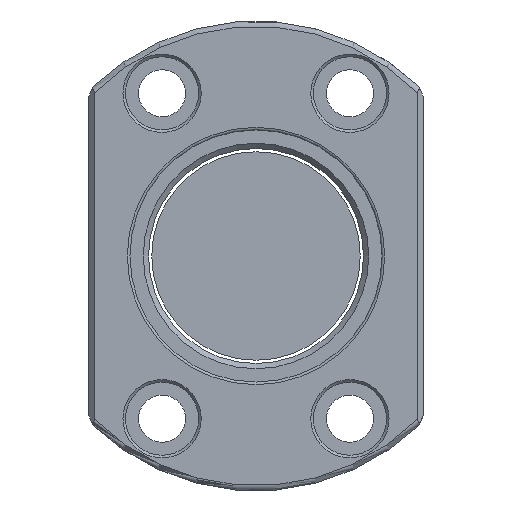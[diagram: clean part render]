
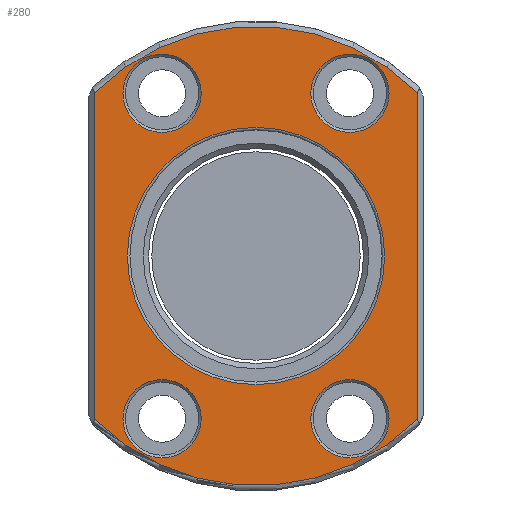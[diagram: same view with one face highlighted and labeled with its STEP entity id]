
A CAD part, front view. The second image highlights one B-rep face of the part: STEP entity #280.
In plain terms, the highlighted planar face has unit normal (0, -1, 0).
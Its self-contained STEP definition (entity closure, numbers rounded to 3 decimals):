
#58=LINE('',#1732,#98);
#59=LINE('',#1736,#99);
#98=VECTOR('',#1397,1.);
#99=VECTOR('',#1400,1.);
#203=PLANE('',#1170);
#280=ADVANCED_FACE('',(#385,#386,#387,#388,#389,#390),#203,.T.);
#385=FACE_BOUND('',#497,.T.);
#386=FACE_BOUND('',#498,.T.);
#387=FACE_BOUND('',#499,.T.);
#388=FACE_BOUND('',#500,.T.);
#389=FACE_BOUND('',#501,.T.);
#390=FACE_BOUND('',#502,.T.);
#497=EDGE_LOOP('',(#664));
#498=EDGE_LOOP('',(#665));
#499=EDGE_LOOP('',(#666));
#500=EDGE_LOOP('',(#667));
#501=EDGE_LOOP('',(#668));
#502=EDGE_LOOP('',(#669,#670,#671,#672));
#664=ORIENTED_EDGE('',*,*,#966,.T.);
#665=ORIENTED_EDGE('',*,*,#967,.T.);
#666=ORIENTED_EDGE('',*,*,#968,.T.);
#667=ORIENTED_EDGE('',*,*,#969,.T.);
#668=ORIENTED_EDGE('',*,*,#970,.T.);
#669=ORIENTED_EDGE('',*,*,#971,.T.);
#670=ORIENTED_EDGE('',*,*,#972,.T.);
#671=ORIENTED_EDGE('',*,*,#973,.T.);
#672=ORIENTED_EDGE('',*,*,#974,.T.);
#861=VERTEX_POINT('',#1720);
#862=VERTEX_POINT('',#1722);
#863=VERTEX_POINT('',#1724);
#864=VERTEX_POINT('',#1726);
#865=VERTEX_POINT('',#1728);
#866=VERTEX_POINT('',#1730);
#867=VERTEX_POINT('',#1731);
#868=VERTEX_POINT('',#1733);
#869=VERTEX_POINT('',#1735);
#966=EDGE_CURVE('',#861,#861,#1068,.T.);
#967=EDGE_CURVE('',#862,#862,#1069,.T.);
#968=EDGE_CURVE('',#863,#863,#1070,.T.);
#969=EDGE_CURVE('',#864,#864,#1071,.T.);
#970=EDGE_CURVE('',#865,#865,#1072,.T.);
#971=EDGE_CURVE('',#866,#867,#1073,.T.);
#972=EDGE_CURVE('',#867,#868,#58,.T.);
#973=EDGE_CURVE('',#868,#869,#1074,.T.);
#974=EDGE_CURVE('',#869,#866,#59,.T.);
#1068=CIRCLE('',#1163,24.65);
#1069=CIRCLE('',#1164,7.5);
#1070=CIRCLE('',#1165,7.5);
#1071=CIRCLE('',#1166,7.5);
#1072=CIRCLE('',#1167,7.5);
#1073=CIRCLE('',#1168,44.);
#1074=CIRCLE('',#1169,44.);
#1163=AXIS2_PLACEMENT_3D('',#1719,#1385,#1386);
#1164=AXIS2_PLACEMENT_3D('',#1721,#1387,#1388);
#1165=AXIS2_PLACEMENT_3D('',#1723,#1389,#1390);
#1166=AXIS2_PLACEMENT_3D('',#1725,#1391,#1392);
#1167=AXIS2_PLACEMENT_3D('',#1727,#1393,#1394);
#1168=AXIS2_PLACEMENT_3D('',#1729,#1395,#1396);
#1169=AXIS2_PLACEMENT_3D('',#1734,#1398,#1399);
#1170=AXIS2_PLACEMENT_3D('',#1737,#1401,#1402);
#1385=DIRECTION('',(0.,1.,0.));
#1386=DIRECTION('',(0.,0.,-1.));
#1387=DIRECTION('',(0.,1.,0.));
#1388=DIRECTION('',(0.,0.,-1.));
#1389=DIRECTION('',(0.,1.,0.));
#1390=DIRECTION('',(0.,0.,-1.));
#1391=DIRECTION('',(0.,1.,0.));
#1392=DIRECTION('',(0.,0.,-1.));
#1393=DIRECTION('',(0.,1.,0.));
#1394=DIRECTION('',(0.,0.,-1.));
#1395=DIRECTION('',(0.,-1.,0.));
#1396=DIRECTION('',(0.,0.,-1.));
#1397=DIRECTION('',(0.,0.,1.));
#1398=DIRECTION('',(0.,-1.,0.));
#1399=DIRECTION('',(0.,0.,-1.));
#1400=DIRECTION('',(0.,0.,-1.));
#1401=DIRECTION('',(0.,-1.,0.));
#1402=DIRECTION('',(0.,0.,-1.));
#1719=CARTESIAN_POINT('',(0.,0.,0.));
#1720=CARTESIAN_POINT('',(0.,0.,-24.65));
#1721=CARTESIAN_POINT('',(18.,0.,31.177));
#1722=CARTESIAN_POINT('',(18.,0.,23.677));
#1723=CARTESIAN_POINT('',(-18.,0.,-31.177));
#1724=CARTESIAN_POINT('',(-18.,0.,-38.677));
#1725=CARTESIAN_POINT('',(18.,0.,-31.177));
#1726=CARTESIAN_POINT('',(18.,0.,-38.677));
#1727=CARTESIAN_POINT('',(-18.,0.,31.177));
#1728=CARTESIAN_POINT('',(-18.,0.,23.677));
#1729=CARTESIAN_POINT('',(0.,0.,0.));
#1730=CARTESIAN_POINT('',(-31.,0.,-31.225));
#1731=CARTESIAN_POINT('',(31.,0.,-31.225));
#1732=CARTESIAN_POINT('',(31.,0.,30.199));
#1733=CARTESIAN_POINT('',(31.,0.,31.225));
#1734=CARTESIAN_POINT('',(0.,0.,0.));
#1735=CARTESIAN_POINT('',(-31.,0.,31.225));
#1736=CARTESIAN_POINT('',(-31.,0.,-30.199));
#1737=CARTESIAN_POINT('',(0.,0.,0.));
